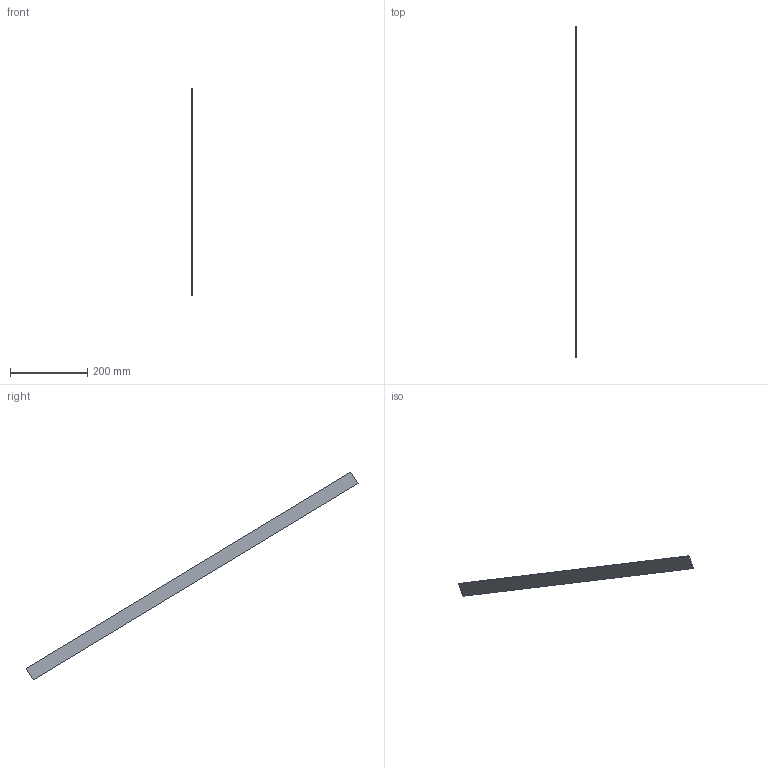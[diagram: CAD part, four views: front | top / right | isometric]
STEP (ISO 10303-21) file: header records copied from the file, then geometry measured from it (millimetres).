
FILE_DESCRIPTION(('Open CASCADE Model'),'2;1');
FILE_NAME('Open CASCADE Shape Model','2026-09-19T12:55:26',('Author'),( 'Open CASCADE'),'Open CASCADE STEP processor 7.9','Open CASCADE 7.9' ,'Unknown');
FILE_SCHEMA(('AUTOMOTIVE_DESIGN { 1 0 10303 214 1 1 1 1 }'));
Length unit declared in the file: millimetre
Products named in the file (1): Open CASCADE STEP translator 7.9 500
Bounding box: 3 x 857.03 x 536.49 mm (x, y, z)
Volume: 102900 mm3; surface area: 74690 mm2
Topology: 1 solids, 1 shells, 6 faces, 12 edges, 8 vertices
Faces by surface type: plane 6
Entity records: 322 total; most frequent: CARTESIAN_POINT 51, DIRECTION 50, LINE 36, VECTOR 36, ORIENTED_EDGE 24, PCURVE 24, DEFINITIONAL_REPRESENTATION 24, EDGE_CURVE 12
